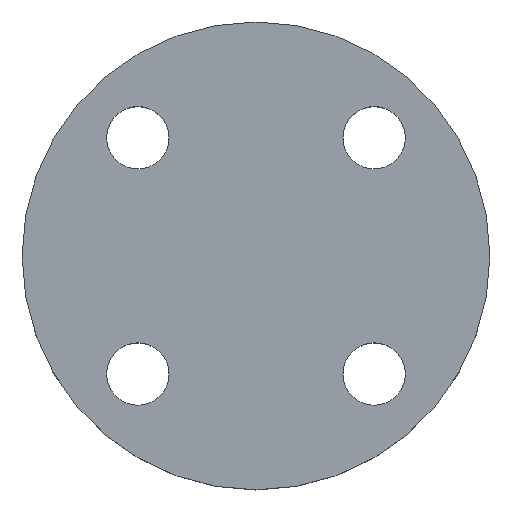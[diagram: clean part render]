
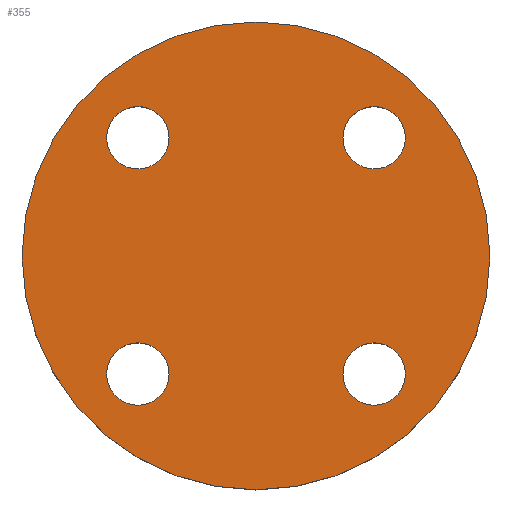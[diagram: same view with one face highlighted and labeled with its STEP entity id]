
A CAD part, top view. The second image highlights one B-rep face of the part: STEP entity #355.
In plain terms, the highlighted planar face has unit normal (0, 0, 1).
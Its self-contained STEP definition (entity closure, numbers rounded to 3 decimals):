
#7 = AXIS2_PLACEMENT_3D ( 'NONE', #528, #529, #530 ) ;
#16 = AXIS2_PLACEMENT_3D ( 'NONE', #501, #502, #503 ) ;
#22 = AXIS2_PLACEMENT_3D ( 'NONE', #457, #458, #459 ) ;
#26 = CIRCLE ( 'NONE', #41, 7. ) ;
#28 = EDGE_CURVE ( 'NONE', #248, #325, #26, .T. ) ;
#32 = AXIS2_PLACEMENT_3D ( 'NONE', #404, #405, #406 ) ;
#40 = CIRCLE ( 'NONE', #16, 7. ) ;
#41 = AXIS2_PLACEMENT_3D ( 'NONE', #352, #353, #354 ) ;
#45 = CIRCLE ( 'NONE', #7, 52.5 ) ;
#48 = ORIENTED_EDGE ( 'NONE', *, *, #560, .T. ) ;
#61 = AXIS2_PLACEMENT_3D ( 'NONE', #205, #206, #209 ) ;
#66 = CIRCLE ( 'NONE', #61, 7. ) ;
#75 = CIRCLE ( 'NONE', #76, 7. ) ;
#76 = AXIS2_PLACEMENT_3D ( 'NONE', #488, #489, #490 ) ;
#86 = AXIS2_PLACEMENT_3D ( 'NONE', #184, #186, #187 ) ;
#87 = CIRCLE ( 'NONE', #86, 7. ) ;
#90 = ORIENTED_EDGE ( 'NONE', *, *, #217, .T. ) ;
#91 = ORIENTED_EDGE ( 'NONE', *, *, #308, .T. ) ;
#101 = AXIS2_PLACEMENT_3D ( 'NONE', #541, #542, #543 ) ;
#102 = EDGE_CURVE ( 'NONE', #329, #303, #566, .T. ) ;
#120 = VERTEX_POINT ( 'NONE', #425 ) ;
#147 = AXIS2_PLACEMENT_3D ( 'NONE', #538, #539, #540 ) ;
#172 = CIRCLE ( 'NONE', #101, 52.5 ) ;
#181 = EDGE_LOOP ( 'NONE', ( #90, #91 ) ) ;
#184 = CARTESIAN_POINT ( 'NONE',  ( -26.517, -26.517, 0. ) ) ;
#186 = DIRECTION ( 'NONE',  ( 0., 0., -1. ) ) ;
#187 = DIRECTION ( 'NONE',  ( -1., 0., 0. ) ) ;
#201 = EDGE_CURVE ( 'NONE', #321, #120, #251, .T. ) ;
#205 = CARTESIAN_POINT ( 'NONE',  ( 26.517, 26.517, 0. ) ) ;
#206 = DIRECTION ( 'NONE',  ( 0., 0., -1. ) ) ;
#209 = DIRECTION ( 'NONE',  ( -1., 0., 0. ) ) ;
#217 = EDGE_CURVE ( 'NONE', #320, #238, #565, .T. ) ;
#223 = VERTEX_POINT ( 'NONE', #473 ) ;
#237 = ORIENTED_EDGE ( 'NONE', *, *, #102, .T. ) ;
#238 = VERTEX_POINT ( 'NONE', #482 ) ;
#239 = ORIENTED_EDGE ( 'NONE', *, *, #468, .T. ) ;
#242 = ORIENTED_EDGE ( 'NONE', *, *, #201, .T. ) ;
#248 = VERTEX_POINT ( 'NONE', #483 ) ;
#250 = AXIS2_PLACEMENT_3D ( 'NONE', #466, #467, #469 ) ;
#251 = CIRCLE ( 'NONE', #22, 7. ) ;
#254 = ORIENTED_EDGE ( 'NONE', *, *, #351, .T. ) ;
#255 = ORIENTED_EDGE ( 'NONE', *, *, #296, .T. ) ;
#256 = ORIENTED_EDGE ( 'NONE', *, *, #359, .T. ) ;
#289 = ORIENTED_EDGE ( 'NONE', *, *, #28, .T. ) ;
#296 = EDGE_CURVE ( 'NONE', #303, #329, #75, .T. ) ;
#297 = EDGE_LOOP ( 'NONE', ( #254, #256 ) ) ;
#303 = VERTEX_POINT ( 'NONE', #498 ) ;
#308 = EDGE_CURVE ( 'NONE', #238, #320, #40, .T. ) ;
#314 = VERTEX_POINT ( 'NONE', #505 ) ;
#316 = EDGE_LOOP ( 'NONE', ( #255, #237 ) ) ;
#317 = EDGE_LOOP ( 'NONE', ( #48, #289 ) ) ;
#318 = EDGE_LOOP ( 'NONE', ( #239, #242 ) ) ;
#320 = VERTEX_POINT ( 'NONE', #507 ) ;
#321 = VERTEX_POINT ( 'NONE', #509 ) ;
#325 = VERTEX_POINT ( 'NONE', #512 ) ;
#329 = VERTEX_POINT ( 'NONE', #519 ) ;
#351 = EDGE_CURVE ( 'NONE', #223, #314, #45, .T. ) ;
#352 = CARTESIAN_POINT ( 'NONE',  ( 26.517, 26.517, 0. ) ) ;
#353 = DIRECTION ( 'NONE',  ( 0., 0., -1. ) ) ;
#354 = DIRECTION ( 'NONE',  ( -1., 0., 0. ) ) ;
#355 = ADVANCED_FACE ( 'NONE', ( #531, #533, #534, #535, #536 ), #537, .T. ) ;
#359 = EDGE_CURVE ( 'NONE', #314, #223, #172, .T. ) ;
#404 = CARTESIAN_POINT ( 'NONE',  ( 26.517, -26.517, 0. ) ) ;
#405 = DIRECTION ( 'NONE',  ( 0., 0., -1. ) ) ;
#406 = DIRECTION ( 'NONE',  ( -1., 0., 0. ) ) ;
#425 = CARTESIAN_POINT ( 'NONE',  ( -19.517, -26.517, 0. ) ) ;
#457 = CARTESIAN_POINT ( 'NONE',  ( -26.517, -26.517, 0. ) ) ;
#458 = DIRECTION ( 'NONE',  ( 0., 0., -1. ) ) ;
#459 = DIRECTION ( 'NONE',  ( -1., 0., 0. ) ) ;
#466 = CARTESIAN_POINT ( 'NONE',  ( -26.517, 26.517, 0. ) ) ;
#467 = DIRECTION ( 'NONE',  ( 0., 0., -1. ) ) ;
#468 = EDGE_CURVE ( 'NONE', #120, #321, #87, .T. ) ;
#469 = DIRECTION ( 'NONE',  ( -1., 0., 0. ) ) ;
#473 = CARTESIAN_POINT ( 'NONE',  ( 52.5, 0., 0. ) ) ;
#482 = CARTESIAN_POINT ( 'NONE',  ( -33.517, 26.517, 0. ) ) ;
#483 = CARTESIAN_POINT ( 'NONE',  ( 19.517, 26.517, 0. ) ) ;
#488 = CARTESIAN_POINT ( 'NONE',  ( 26.517, -26.517, 0. ) ) ;
#489 = DIRECTION ( 'NONE',  ( 0., 0., -1. ) ) ;
#490 = DIRECTION ( 'NONE',  ( -1., 0., 0. ) ) ;
#498 = CARTESIAN_POINT ( 'NONE',  ( 33.517, -26.517, 0. ) ) ;
#501 = CARTESIAN_POINT ( 'NONE',  ( -26.517, 26.517, 0. ) ) ;
#502 = DIRECTION ( 'NONE',  ( 0., 0., -1. ) ) ;
#503 = DIRECTION ( 'NONE',  ( -1., 0., 0. ) ) ;
#505 = CARTESIAN_POINT ( 'NONE',  ( -52.5, 0., 0. ) ) ;
#507 = CARTESIAN_POINT ( 'NONE',  ( -19.517, 26.517, 0. ) ) ;
#509 = CARTESIAN_POINT ( 'NONE',  ( -33.517, -26.517, 0. ) ) ;
#512 = CARTESIAN_POINT ( 'NONE',  ( 33.517, 26.517, 0. ) ) ;
#519 = CARTESIAN_POINT ( 'NONE',  ( 19.517, -26.517, 0. ) ) ;
#528 = CARTESIAN_POINT ( 'NONE',  ( 0., 0., 0. ) ) ;
#529 = DIRECTION ( 'NONE',  ( 0., 0., 1. ) ) ;
#530 = DIRECTION ( 'NONE',  ( 1., 0., 0. ) ) ;
#531 = FACE_BOUND ( 'NONE', #316, .T. ) ;
#533 = FACE_BOUND ( 'NONE', #318, .T. ) ;
#534 = FACE_BOUND ( 'NONE', #181, .T. ) ;
#535 = FACE_BOUND ( 'NONE', #317, .T. ) ;
#536 = FACE_OUTER_BOUND ( 'NONE', #297, .T. ) ;
#537 = PLANE ( 'NONE',  #147 ) ;
#538 = CARTESIAN_POINT ( 'NONE',  ( 0., 0., 0. ) ) ;
#539 = DIRECTION ( 'NONE',  ( 0., 0., 1. ) ) ;
#540 = DIRECTION ( 'NONE',  ( 1., 0., 0. ) ) ;
#541 = CARTESIAN_POINT ( 'NONE',  ( 0., 0., 0. ) ) ;
#542 = DIRECTION ( 'NONE',  ( 0., 0., 1. ) ) ;
#543 = DIRECTION ( 'NONE',  ( 1., 0., 0. ) ) ;
#560 = EDGE_CURVE ( 'NONE', #325, #248, #66, .T. ) ;
#565 = CIRCLE ( 'NONE', #250, 7. ) ;
#566 = CIRCLE ( 'NONE', #32, 7. ) ;
